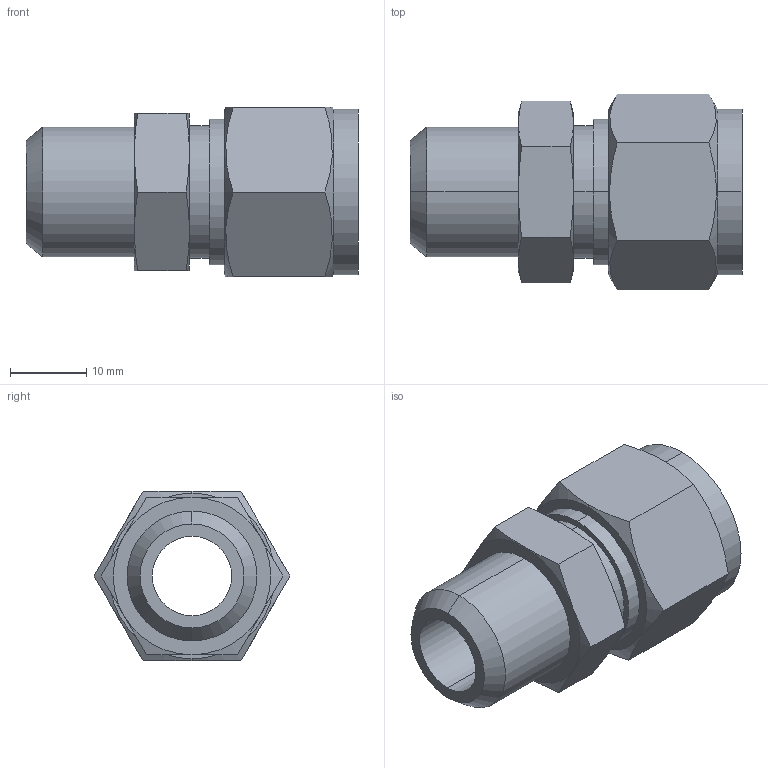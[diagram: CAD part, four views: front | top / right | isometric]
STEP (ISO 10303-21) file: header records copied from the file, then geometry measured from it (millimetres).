
FILE_DESCRIPTION (( 'STEP AP203' ), '1' );
FILE_NAME ('DCB08-06 SS.STEP', '2009-09-08T04:47:28', ( ' ' ), ( '' ), 'SwSTEP 2.0', 'SolidWorks 2008', '' );
FILE_SCHEMA (( 'CONFIG_CONTROL_DESIGN' ));
Length unit declared in the file: millimetre
Products named in the file (1): DCB08-06 SS
Bounding box: 43.5 x 25.67 x 22.23 mm (x, y, z)
Volume: 9575.7 mm3; surface area: 5250.1 mm2
Topology: 1 solids, 1 shells, 49 faces, 110 edges, 68 vertices
Faces by surface type: plane 19, cone 18, cylinder 12
Entity records: 1613 total; most frequent: CARTESIAN_POINT 484, ORIENTED_EDGE 220, DIRECTION 210, EDGE_CURVE 110, AXIS2_PLACEMENT_3D 90, VERTEX_POINT 68, EDGE_LOOP 56, FACE_OUTER_BOUND 49
